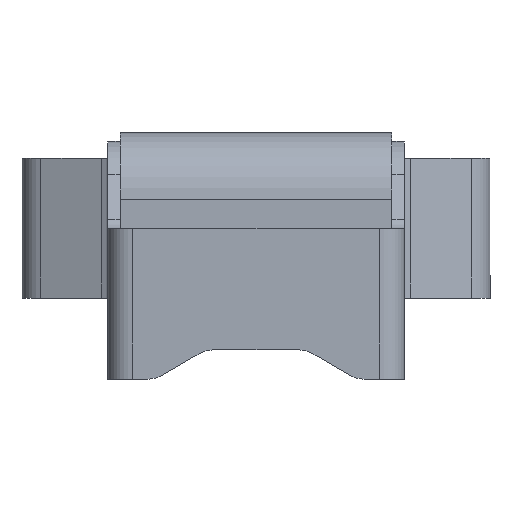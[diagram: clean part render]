
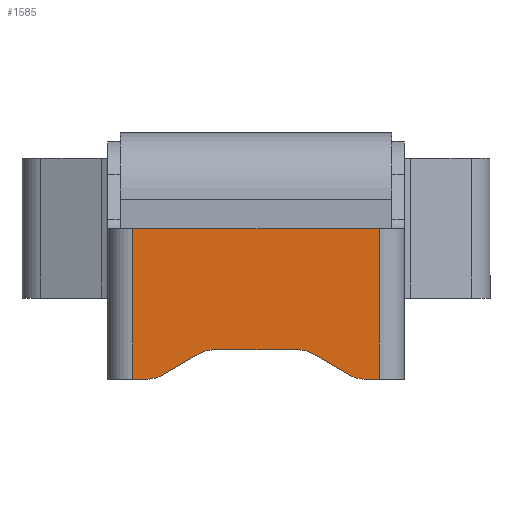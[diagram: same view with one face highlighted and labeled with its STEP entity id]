
A CAD part, top view. The second image highlights one B-rep face of the part: STEP entity #1585.
In plain terms, the highlighted planar face has unit normal (0, 0, 1).
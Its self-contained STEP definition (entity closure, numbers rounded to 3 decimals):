
#19 = ORIENTED_EDGE ( 'NONE', *, *, #2605, .T. ) ;
#22 = EDGE_CURVE ( 'NONE', #3420, #1961, #700, .T. ) ;
#112 = VERTEX_POINT ( 'NONE', #965 ) ;
#134 = VERTEX_POINT ( 'NONE', #3125 ) ;
#170 = PLANE ( 'NONE',  #2771 ) ;
#260 = EDGE_LOOP ( 'NONE', ( #356, #3317, #2623, #2954, #2518, #3256, #1154, #2254, #2952, #3342, #2847, #19 ) ) ;
#356 = ORIENTED_EDGE ( 'NONE', *, *, #2462, .F. ) ;
#375 = VECTOR ( 'NONE', #541, 1000. ) ;
#391 = VERTEX_POINT ( 'NONE', #2448 ) ;
#407 = DIRECTION ( 'NONE',  ( 1., 0., 0. ) ) ;
#433 = EDGE_CURVE ( 'NONE', #391, #2125, #1141, .T. ) ;
#462 = DIRECTION ( 'NONE',  ( -1., 0., 0. ) ) ;
#485 = EDGE_CURVE ( 'NONE', #1079, #3420, #2776, .T. ) ;
#497 = LINE ( 'NONE', #1285, #1272 ) ;
#512 = VERTEX_POINT ( 'NONE', #3101 ) ;
#541 = DIRECTION ( 'NONE',  ( -0.864, -0.504, 0. ) ) ;
#560 = DIRECTION ( 'NONE',  ( 0., 0., -1. ) ) ;
#626 = CARTESIAN_POINT ( 'NONE',  ( 29.5, 48.5, 124.928 ) ) ;
#700 = LINE ( 'NONE', #626, #1454 ) ;
#765 = AXIS2_PLACEMENT_3D ( 'NONE', #2198, #1897, #3293 ) ;
#776 = DIRECTION ( 'NONE',  ( 0., -1., 0. ) ) ;
#872 = DIRECTION ( 'NONE',  ( 1., 0., 0. ) ) ;
#887 = DIRECTION ( 'NONE',  ( -1., 0., 0. ) ) ;
#965 = CARTESIAN_POINT ( 'NONE',  ( -25.892, -24.5, 124.928 ) ) ;
#1019 = EDGE_CURVE ( 'NONE', #1961, #134, #1444, .T. ) ;
#1073 = LINE ( 'NONE', #2140, #375 ) ;
#1079 = VERTEX_POINT ( 'NONE', #3333 ) ;
#1085 = CARTESIAN_POINT ( 'NONE',  ( -13.635, -18.454, 124.928 ) ) ;
#1094 = AXIS2_PLACEMENT_3D ( 'NONE', #1335, #560, #872 ) ;
#1140 = AXIS2_PLACEMENT_3D ( 'NONE', #2788, #3298, #407 ) ;
#1141 = LINE ( 'NONE', #2210, #2473 ) ;
#1154 = ORIENTED_EDGE ( 'NONE', *, *, #1200, .F. ) ;
#1200 = EDGE_CURVE ( 'NONE', #112, #2828, #3129, .T. ) ;
#1227 = CARTESIAN_POINT ( 'NONE',  ( -32.5, -24.5, 124.928 ) ) ;
#1272 = VECTOR ( 'NONE', #776, 1000. ) ;
#1284 = VECTOR ( 'NONE', #1313, 1000. ) ;
#1285 = CARTESIAN_POINT ( 'NONE',  ( -29.5, 48.5, 124.928 ) ) ;
#1313 = DIRECTION ( 'NONE',  ( -1., 0., 0. ) ) ;
#1321 = CIRCLE ( 'NONE', #1094, 7. ) ;
#1335 = CARTESIAN_POINT ( 'NONE',  ( 10.108, -24.5, 124.928 ) ) ;
#1403 = CARTESIAN_POINT ( 'NONE',  ( -22.365, -23.546, 124.928 ) ) ;
#1442 = CARTESIAN_POINT ( 'NONE',  ( 29.5, -24.5, 124.928 ) ) ;
#1444 = LINE ( 'NONE', #1227, #1603 ) ;
#1454 = VECTOR ( 'NONE', #2015, 1000. ) ;
#1465 = CARTESIAN_POINT ( 'NONE',  ( 22.365, -23.546, 124.928 ) ) ;
#1577 = CIRCLE ( 'NONE', #3033, 7. ) ;
#1585 = ADVANCED_FACE ( 'NONE', ( #2257 ), #170, .T. ) ;
#1603 = VECTOR ( 'NONE', #462, 1000. ) ;
#1605 = DIRECTION ( 'NONE',  ( 1., 0., 0. ) ) ;
#1674 = LINE ( 'NONE', #2483, #2917 ) ;
#1707 = DIRECTION ( 'NONE',  ( -0.864, 0.504, 0. ) ) ;
#1735 = CARTESIAN_POINT ( 'NONE',  ( -10.108, -17.5, 124.928 ) ) ;
#1768 = CARTESIAN_POINT ( 'NONE',  ( -32.5, 11.5, 124.928 ) ) ;
#1897 = DIRECTION ( 'NONE',  ( 0., 0., -1. ) ) ;
#1908 = CARTESIAN_POINT ( 'NONE',  ( -29.5, -24.5, 124.928 ) ) ;
#1961 = VERTEX_POINT ( 'NONE', #1442 ) ;
#2011 = DIRECTION ( 'NONE',  ( 0., 0., 1. ) ) ;
#2015 = DIRECTION ( 'NONE',  ( 0., -1., 0. ) ) ;
#2037 = CIRCLE ( 'NONE', #1140, 7. ) ;
#2078 = VERTEX_POINT ( 'NONE', #1403 ) ;
#2125 = VERTEX_POINT ( 'NONE', #1735 ) ;
#2140 = CARTESIAN_POINT ( 'NONE',  ( 1.43, -9.666, 124.928 ) ) ;
#2198 = CARTESIAN_POINT ( 'NONE',  ( -10.108, -24.5, 124.928 ) ) ;
#2210 = CARTESIAN_POINT ( 'NONE',  ( -32.5, -17.5, 124.928 ) ) ;
#2254 = ORIENTED_EDGE ( 'NONE', *, *, #3435, .T. ) ;
#2257 = FACE_OUTER_BOUND ( 'NONE', #260, .T. ) ;
#2401 = VERTEX_POINT ( 'NONE', #1085 ) ;
#2448 = CARTESIAN_POINT ( 'NONE',  ( 10.108, -17.5, 124.928 ) ) ;
#2450 = DIRECTION ( 'NONE',  ( 0., 0., 1. ) ) ;
#2462 = EDGE_CURVE ( 'NONE', #2948, #512, #1674, .T. ) ;
#2473 = VECTOR ( 'NONE', #887, 1000. ) ;
#2483 = CARTESIAN_POINT ( 'NONE',  ( -49.927, 18.624, 124.928 ) ) ;
#2518 = ORIENTED_EDGE ( 'NONE', *, *, #485, .F. ) ;
#2540 = VECTOR ( 'NONE', #2818, 1000. ) ;
#2568 = EDGE_CURVE ( 'NONE', #2401, #2078, #1073, .T. ) ;
#2605 = EDGE_CURVE ( 'NONE', #391, #512, #1321, .T. ) ;
#2623 = ORIENTED_EDGE ( 'NONE', *, *, #1019, .F. ) ;
#2656 = CARTESIAN_POINT ( 'NONE',  ( 29.5, 11.5, 124.928 ) ) ;
#2688 = EDGE_CURVE ( 'NONE', #2401, #2125, #3285, .T. ) ;
#2771 = AXIS2_PLACEMENT_3D ( 'NONE', #3118, #2011, #3077 ) ;
#2776 = LINE ( 'NONE', #1768, #2540 ) ;
#2788 = CARTESIAN_POINT ( 'NONE',  ( 25.892, -17.5, 124.928 ) ) ;
#2818 = DIRECTION ( 'NONE',  ( 1., 0., 0. ) ) ;
#2828 = VERTEX_POINT ( 'NONE', #1908 ) ;
#2847 = ORIENTED_EDGE ( 'NONE', *, *, #433, .F. ) ;
#2917 = VECTOR ( 'NONE', #1707, 1000. ) ;
#2940 = CARTESIAN_POINT ( 'NONE',  ( -25.892, -17.5, 124.928 ) ) ;
#2948 = VERTEX_POINT ( 'NONE', #1465 ) ;
#2952 = ORIENTED_EDGE ( 'NONE', *, *, #2568, .F. ) ;
#2954 = ORIENTED_EDGE ( 'NONE', *, *, #22, .F. ) ;
#3025 = EDGE_CURVE ( 'NONE', #1079, #2828, #497, .T. ) ;
#3033 = AXIS2_PLACEMENT_3D ( 'NONE', #2940, #2450, #1605 ) ;
#3077 = DIRECTION ( 'NONE',  ( 1., 0., 0. ) ) ;
#3101 = CARTESIAN_POINT ( 'NONE',  ( 13.635, -18.454, 124.928 ) ) ;
#3118 = CARTESIAN_POINT ( 'NONE',  ( -32.5, 48.5, 124.928 ) ) ;
#3125 = CARTESIAN_POINT ( 'NONE',  ( 25.892, -24.5, 124.928 ) ) ;
#3129 = LINE ( 'NONE', #3144, #1284 ) ;
#3144 = CARTESIAN_POINT ( 'NONE',  ( -32.5, -24.5, 124.928 ) ) ;
#3256 = ORIENTED_EDGE ( 'NONE', *, *, #3025, .T. ) ;
#3260 = EDGE_CURVE ( 'NONE', #2948, #134, #2037, .T. ) ;
#3285 = CIRCLE ( 'NONE', #765, 7. ) ;
#3293 = DIRECTION ( 'NONE',  ( 1., 0., 0. ) ) ;
#3298 = DIRECTION ( 'NONE',  ( 0., 0., 1. ) ) ;
#3317 = ORIENTED_EDGE ( 'NONE', *, *, #3260, .T. ) ;
#3333 = CARTESIAN_POINT ( 'NONE',  ( -29.5, 11.5, 124.928 ) ) ;
#3342 = ORIENTED_EDGE ( 'NONE', *, *, #2688, .T. ) ;
#3420 = VERTEX_POINT ( 'NONE', #2656 ) ;
#3435 = EDGE_CURVE ( 'NONE', #112, #2078, #1577, .T. ) ;
